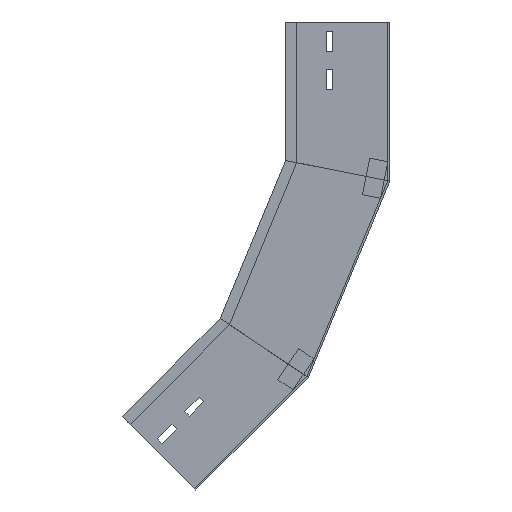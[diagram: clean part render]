
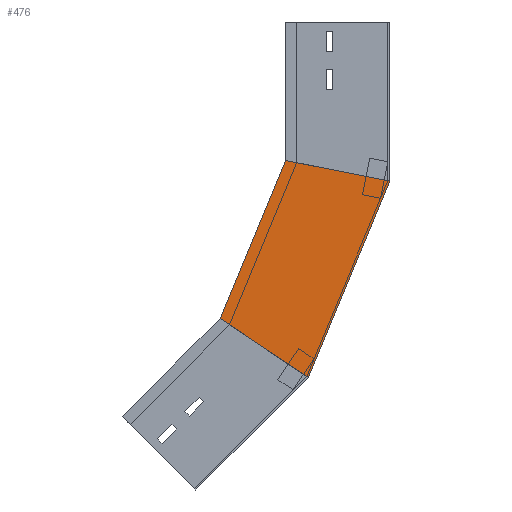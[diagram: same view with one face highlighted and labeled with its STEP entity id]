
A CAD part, left-side view. The second image highlights one B-rep face of the part: STEP entity #476.
In plain terms, the highlighted planar face has unit normal (-1, 0, 0) as drawn and (1, 0, 0) by its records, which use the part's own axes.
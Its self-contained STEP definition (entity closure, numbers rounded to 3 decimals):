
#46 = CARTESIAN_POINT ( 'NONE',  ( 0., 112.5, -149.722 ) ) ;
#96 = CARTESIAN_POINT ( 'NONE',  ( 0., 88.017, -384.592 ) ) ;
#130 = VECTOR ( 'NONE', #828, 1000. ) ;
#167 = ORIENTED_EDGE ( 'NONE', *, *, #1048, .T. ) ;
#187 = ORIENTED_EDGE ( 'NONE', *, *, #561, .F. ) ;
#197 = LINE ( 'NONE', #1476, #863 ) ;
#276 = LINE ( 'NONE', #737, #1456 ) ;
#313 = FACE_OUTER_BOUND ( 'NONE', #603, .T. ) ;
#378 = LINE ( 'NONE', #391, #130 ) ;
#391 = CARTESIAN_POINT ( 'NONE',  ( 0., 32.93, -165.55 ) ) ;
#401 = LINE ( 'NONE', #854, #1405 ) ;
#427 = VERTEX_POINT ( 'NONE', #96 ) ;
#476 = ADVANCED_FACE ( 'NONE', ( #313 ), #1366, .F. ) ;
#536 = AXIS2_PLACEMENT_3D ( 'NONE', #794, #1251, #775 ) ;
#552 = EDGE_CURVE ( 'NONE', #1303, #890, #378, .T. ) ;
#561 = EDGE_CURVE ( 'NONE', #1303, #1101, #401, .T. ) ;
#603 = EDGE_LOOP ( 'NONE', ( #187, #1450, #167, #732 ) ) ;
#678 = DIRECTION ( 'NONE',  ( 0., -0.831, -0.556 ) ) ;
#732 = ORIENTED_EDGE ( 'NONE', *, *, #1410, .F. ) ;
#737 = CARTESIAN_POINT ( 'NONE',  ( 0., 125.326, -359.663 ) ) ;
#775 = DIRECTION ( 'NONE',  ( 0., 0., 1. ) ) ;
#794 = CARTESIAN_POINT ( 'NONE',  ( 0., 0., -172.1 ) ) ;
#828 = DIRECTION ( 'NONE',  ( 0., -0.981, -0.195 ) ) ;
#854 = CARTESIAN_POINT ( 'NONE',  ( 0., 103.936, -129.048 ) ) ;
#863 = VECTOR ( 'NONE', #1115, 1000. ) ;
#890 = VERTEX_POINT ( 'NONE', #1256 ) ;
#969 = DIRECTION ( 'NONE',  ( 0., 0.383, -0.924 ) ) ;
#1048 = EDGE_CURVE ( 'NONE', #890, #427, #197, .T. ) ;
#1101 = VERTEX_POINT ( 'NONE', #1345 ) ;
#1115 = DIRECTION ( 'NONE',  ( 0., 0.383, -0.924 ) ) ;
#1251 = DIRECTION ( 'NONE',  ( -1., 0., 0. ) ) ;
#1256 = CARTESIAN_POINT ( 'NONE',  ( 0., 0., -172.1 ) ) ;
#1303 = VERTEX_POINT ( 'NONE', #46 ) ;
#1345 = CARTESIAN_POINT ( 'NONE',  ( 0., 183.39, -320.866 ) ) ;
#1366 = PLANE ( 'NONE',  #536 ) ;
#1405 = VECTOR ( 'NONE', #969, 1000. ) ;
#1410 = EDGE_CURVE ( 'NONE', #1101, #427, #276, .T. ) ;
#1450 = ORIENTED_EDGE ( 'NONE', *, *, #552, .T. ) ;
#1456 = VECTOR ( 'NONE', #678, 1000. ) ;
#1476 = CARTESIAN_POINT ( 'NONE',  ( 0., 0., -172.1 ) ) ;
